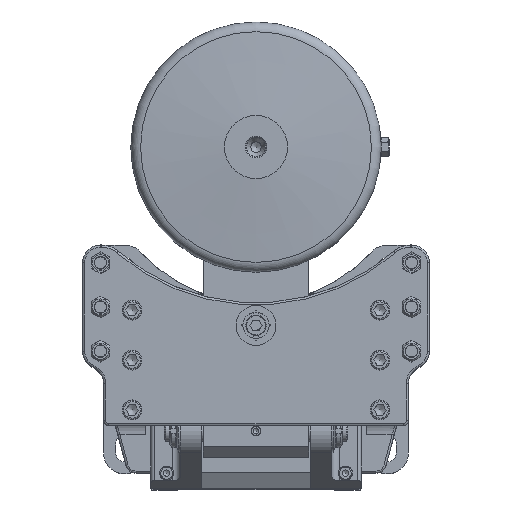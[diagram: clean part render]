
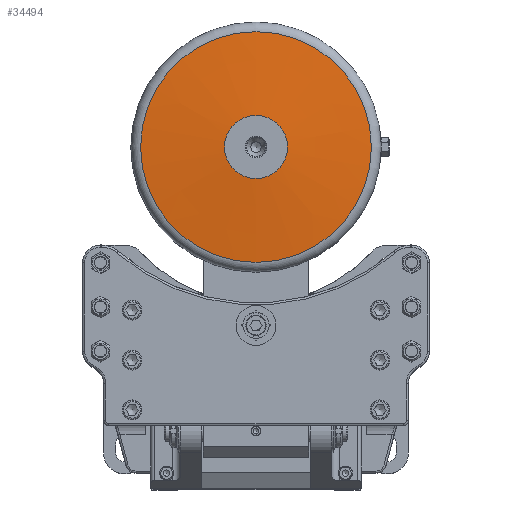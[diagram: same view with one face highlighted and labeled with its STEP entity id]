
A CAD part, top view. The second image highlights one B-rep face of the part: STEP entity #34494.
In plain terms, the highlighted conical face has half-angle 85.426 degrees and reference radius 69.899 mm.
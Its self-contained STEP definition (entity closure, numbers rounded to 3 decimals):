
#834=CONICAL_SURFACE('',#38035,69.899,1.491);
#3403=LINE('',#65754,#5687);
#5687=VECTOR('',#47093,69.899);
#8502=FACE_OUTER_BOUND('',#10628,.T.);
#10628=EDGE_LOOP('',(#29938,#29939,#29940,#29941,#29942,#29943,#29944));
#12541=CIRCLE('',#38036,30.);
#12542=CIRCLE('',#38037,30.);
#12543=CIRCLE('',#38038,109.797);
#12544=CIRCLE('',#38039,109.797);
#12545=CIRCLE('',#38040,109.797);
#15871=VERTEX_POINT('',#65749);
#15872=VERTEX_POINT('',#65750);
#15873=VERTEX_POINT('',#65753);
#15874=VERTEX_POINT('',#65755);
#15875=VERTEX_POINT('',#65757);
#20652=EDGE_CURVE('',#15871,#15872,#12541,.T.);
#20653=EDGE_CURVE('',#15872,#15871,#12542,.T.);
#20654=EDGE_CURVE('',#15872,#15873,#3403,.T.);
#20655=EDGE_CURVE('',#15873,#15874,#12543,.T.);
#20656=EDGE_CURVE('',#15874,#15875,#12544,.T.);
#20657=EDGE_CURVE('',#15875,#15873,#12545,.T.);
#29938=ORIENTED_EDGE('',*,*,#20652,.F.);
#29939=ORIENTED_EDGE('',*,*,#20653,.F.);
#29940=ORIENTED_EDGE('',*,*,#20654,.T.);
#29941=ORIENTED_EDGE('',*,*,#20655,.T.);
#29942=ORIENTED_EDGE('',*,*,#20656,.T.);
#29943=ORIENTED_EDGE('',*,*,#20657,.T.);
#29944=ORIENTED_EDGE('',*,*,#20654,.F.);
#34494=ADVANCED_FACE('',(#8502),#834,.T.);
#38035=AXIS2_PLACEMENT_3D('',#65748,#47087,#47088);
#38036=AXIS2_PLACEMENT_3D('',#65751,#47089,#47090);
#38037=AXIS2_PLACEMENT_3D('',#65752,#47091,#47092);
#38038=AXIS2_PLACEMENT_3D('',#65756,#47094,#47095);
#38039=AXIS2_PLACEMENT_3D('',#65758,#47096,#47097);
#38040=AXIS2_PLACEMENT_3D('',#65759,#47098,#47099);
#47087=DIRECTION('center_axis',(0.,0.,
-1.));
#47088=DIRECTION('ref_axis',(0.,-1.,0.));
#47089=DIRECTION('center_axis',(0.,0.,
1.));
#47090=DIRECTION('ref_axis',(0.,-1.,0.));
#47091=DIRECTION('center_axis',(0.,0.,
1.));
#47092=DIRECTION('ref_axis',(0.,-1.,0.));
#47093=DIRECTION('',(0.,0.997,-0.08));
#47094=DIRECTION('center_axis',(0.,0.,
1.));
#47095=DIRECTION('ref_axis',(0.,-1.,0.));
#47096=DIRECTION('center_axis',(0.,0.,
1.));
#47097=DIRECTION('ref_axis',(0.,-1.,0.));
#47098=DIRECTION('center_axis',(0.,0.,
1.));
#47099=DIRECTION('ref_axis',(0.,-1.,0.));
#65748=CARTESIAN_POINT('Origin',(0.,265.,
357.408));
#65749=CARTESIAN_POINT('',(0.,235.,360.6));
#65750=CARTESIAN_POINT('',(0.,295.,360.6));
#65751=CARTESIAN_POINT('Origin',(0.,265.,
360.6));
#65752=CARTESIAN_POINT('Origin',(0.,265.,
360.6));
#65753=CARTESIAN_POINT('',(0.,374.797,354.216));
#65754=CARTESIAN_POINT('',(0.,334.899,357.408));
#65755=CARTESIAN_POINT('',(0.,155.203,354.216));
#65756=CARTESIAN_POINT('Origin',(0.,265.,
354.216));
#65757=CARTESIAN_POINT('',(109.797,265.,354.216));
#65758=CARTESIAN_POINT('Origin',(0.,265.,
354.216));
#65759=CARTESIAN_POINT('Origin',(0.,265.,
354.216));
